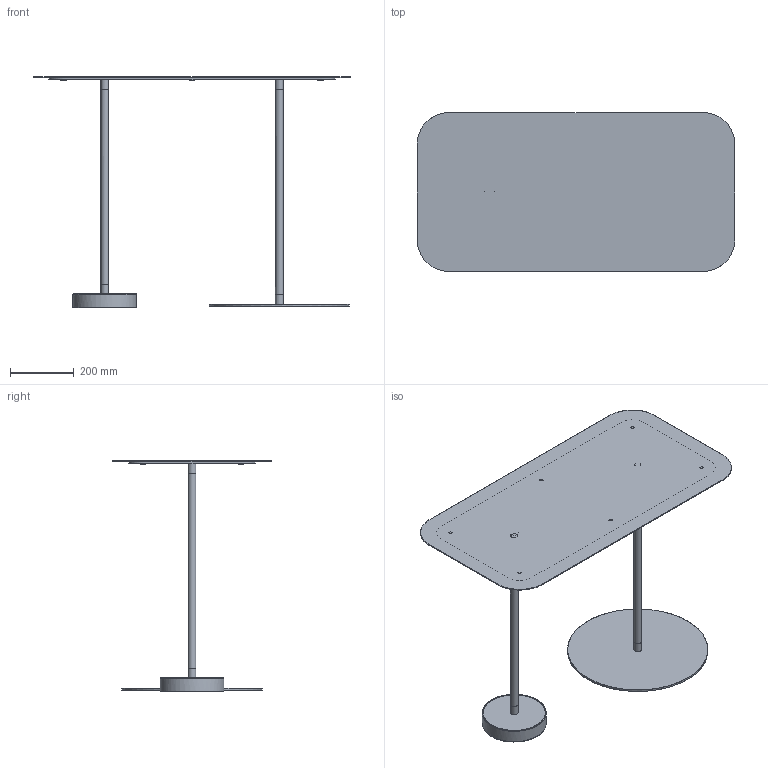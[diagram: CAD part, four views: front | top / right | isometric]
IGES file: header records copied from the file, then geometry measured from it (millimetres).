
Global section: file name: /Users/matteo_studiocdb02/Desktop/Danese 3/SPACE 3d (2)/Bincan Desk/Bincan Desk 3D.igs; native system: Rhinoceros ( Dec 18 2012 ); preprocessor: Trout Lake IGES 012 Dec 18 2012; date: 130124.112656; units: millimetre
Bounding box: 998 x 498 x 728 mm (x, y, z)
Surface area: 2312794.2 mm2 (no closed solid volume)
Topology: 0 solids, 0 shells, 369 faces, 3603 edges, 3380 vertices
Faces by surface type: bspline 369
